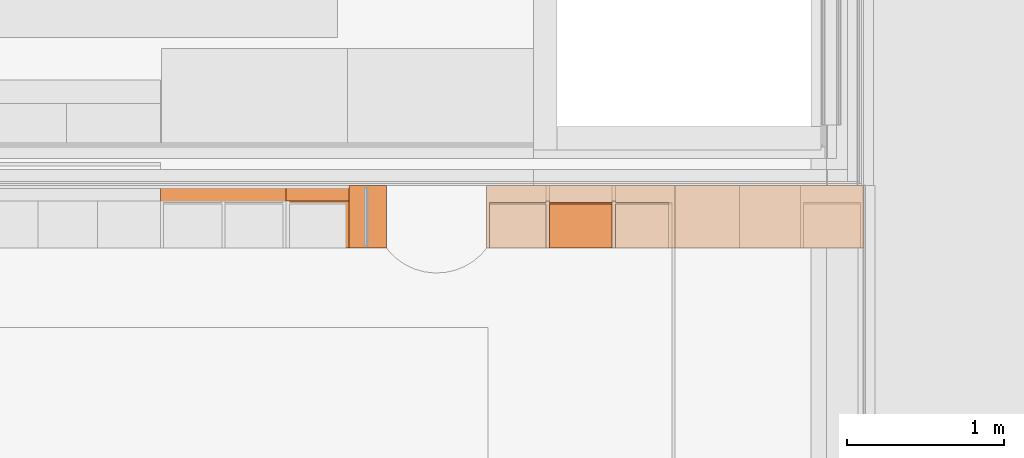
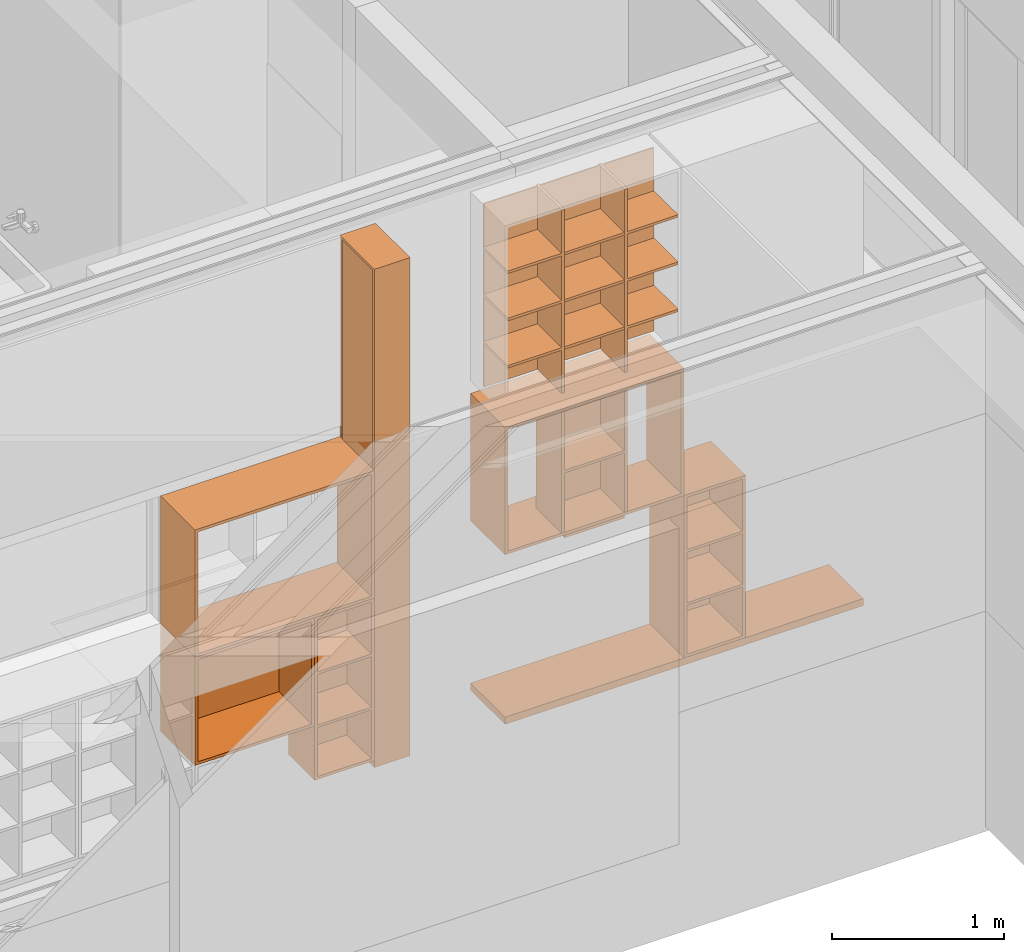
# One storey, part 130 of 137: 11 proxies.
"""IFC2X3 building model written with IfcOpenShell, lengths in millimetres."""

from ifc_helpers import new_model, entity, si_unit, converted_unit, derived_unit, money_unit, direction, frame, origin_with_axes, place, context, subcontext, project, spatial, faceted_brep, type_object, element, save


model = new_model("IFC2X3")

# Units and contexts
model_context = context("Model", 3, precision=0.01, world=origin_with_axes(), true_north=direction((0.0, 1.0)))
body_context = subcontext(model_context, "Body", "Model", "MODEL_VIEW")
ifc_project = project(units=[si_unit("LENGTHUNIT", "METRE", prefix="MILLI"), si_unit("AREAUNIT", "SQUARE_METRE"), si_unit("VOLUMEUNIT", "CUBIC_METRE"), converted_unit("PLANEANGLEUNIT", "DEGREE", entity("IfcPlaneAngleMeasure", 0.0174532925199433), si_unit("PLANEANGLEUNIT", "RADIAN"), dimensions=[0, 0, 0, 0, 0, 0, 0]), money_unit("EUR"), converted_unit("TIMEUNIT", "Year", entity("IfcTimeMeasure", 31556926.0), si_unit("TIMEUNIT", "SECOND"), dimensions=[0, 0, 1, 0, 0, 0, 0]), si_unit("MASSUNIT", "GRAM", prefix="KILO"), si_unit("THERMODYNAMICTEMPERATUREUNIT", "DEGREE_CELSIUS"), si_unit("LUMINOUSINTENSITYUNIT", "LUMEN"), si_unit("ENERGYUNIT", "JOULE", prefix="MEGA"), derived_unit("THERMALCONDUCTANCEUNIT", [(si_unit("POWERUNIT", "WATT"), 1), (si_unit("LENGTHUNIT", "METRE"), -1), (si_unit("THERMODYNAMICTEMPERATUREUNIT", "KELVIN"), -1)]), derived_unit("SPECIFICHEATCAPACITYUNIT", [(si_unit("ENERGYUNIT", "JOULE"), 1), (si_unit("MASSUNIT", "GRAM", prefix="KILO"), -1), (si_unit("THERMODYNAMICTEMPERATUREUNIT", "KELVIN"), -1)]), derived_unit("MASSDENSITYUNIT", [(si_unit("MASSUNIT", "GRAM", prefix="KILO"), 1), (si_unit("VOLUMEUNIT", "CUBIC_METRE"), -1)])], contexts=[model_context])

# Site, building, storey
site_placement = place(None, origin_with_axes())
site = spatial("IfcSite", under=ifc_project, at=site_placement, Name="Site", CompositionType="ELEMENT")
building_placement = place(site_placement, origin_with_axes())
building = spatial("IfcBuilding", under=site, at=building_placement, Name="Naam gebouw", CompositionType="ELEMENT")
storey_placement = place(building_placement, frame((0.0, 0.0, 3960.0), z_axis=(0.0, 0.0, 1.0), x_axis=(1.0, 0.0, 0.0)))
storey = spatial("IfcBuildingStorey", under=building, at=storey_placement, Name="1e verdieping", CompositionType="ELEMENT", Elevation=3960.0)

# Proxies
building_element_proxy_type = type_object("IfcBuildingElementProxyType", Name="Onderkast recht 26", PredefinedType="NOTDEFINED")
proxy_1_placement = place(storey_placement, frame((21360.00661817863, 12504.99778166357, 0.0), z_axis=(0.0, 0.0, 1.0), x_axis=(0.0, 1.0, 0.0)))
element("IfcBuildingElementProxy", 1, at=proxy_1_placement, inside=storey, type_object=building_element_proxy_type, Name="_Leeg", context=body_context, shape_type="Brep", body=[
    faceted_brep([(18.0, -239.9999999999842, 50.0), (382.0, -239.9999999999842, 50.0), (382.0, -239.9999999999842, 68.0), (18.0, -239.9999999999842, 68.0), (18.0, 0.0, 50.0), (382.0, 0.0, 50.0), (382.0, 0.0, 68.0), (18.0, 0.0, 68.0)], [[[0, 1, 2, 3]], [[0, 4, 5, 1]], [[1, 5, 6, 2]], [[3, 2, 6, 7]], [[4, 0, 3, 7]], [[5, 4, 7, 6]]]),
    faceted_brep([(18.0, -239.9999999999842, 3509.000000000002), (382.0, -239.9999999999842, 3509.000000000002), (382.0, -239.9999999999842, 3527.000000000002), (18.0, -239.9999999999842, 3527.000000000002), (18.0, 0.0, 3509.000000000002), (382.0, 0.0, 3509.000000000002), (382.0, 0.0, 3527.000000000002), (18.0, 0.0, 3527.000000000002)], [[[0, 1, 2, 3]], [[0, 4, 5, 1]], [[1, 5, 6, 2]], [[3, 2, 6, 7]], [[4, 0, 3, 7]], [[5, 4, 7, 6]]]),
    faceted_brep([(0.0, 0.0, 50.0), (0.0, -239.9999999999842, 50.0), (0.0, -239.9999999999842, 3527.000000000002), (0.0, 0.0, 3527.000000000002), (18.0, 0.0, 50.0), (18.0, -239.9999999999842, 50.0), (18.0, -239.9999999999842, 3527.000000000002), (18.0, 0.0, 3527.000000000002)], [[[0, 1, 2, 3]], [[0, 4, 5, 1]], [[1, 5, 6, 2]], [[3, 2, 6, 7]], [[4, 0, 3, 7]], [[5, 4, 7, 6]]]),
    faceted_brep([(400.0, -239.9999999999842, 50.0), (400.0, 0.0, 50.0), (400.0, 0.0, 3527.000000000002), (400.0, -239.9999999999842, 3527.000000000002), (382.0, -239.9999999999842, 50.0), (382.0, 0.0, 50.0), (382.0, 0.0, 3527.000000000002), (382.0, -239.9999999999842, 3527.000000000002)], [[[0, 1, 2, 3]], [[0, 4, 5, 1]], [[1, 5, 6, 2]], [[3, 2, 6, 7]], [[4, 0, 3, 7]], [[5, 4, 7, 6]]]),
    faceted_brep([(382.0, -9.0, 68.0), (18.00000000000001, -9.0, 68.0), (18.00000000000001, -9.0, 3509.000000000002), (382.0, -9.0, 3509.000000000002), (382.0, -18.0, 68.0), (18.00000000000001, -18.0, 68.0), (18.00000000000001, -18.0, 3509.000000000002), (382.0, -18.0, 3509.000000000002)], [[[0, 1, 2, 3]], [[0, 4, 5, 1]], [[1, 5, 6, 2]], [[3, 2, 6, 7]], [[4, 0, 3, 7]], [[5, 4, 7, 6]]]),
    faceted_brep([(0.0, -239.9999999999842, 0.0), (400.0, -239.9999999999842, 0.0), (400.0, -239.9999999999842, 50.0), (0.0, -239.9999999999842, 50.0), (0.0, 0.0, 0.0), (400.0, 0.0, 0.0), (400.0, 0.0, 50.0), (0.0, 0.0, 50.0)], [[[0, 1, 2, 3]], [[0, 4, 5, 1]], [[1, 5, 6, 2]], [[3, 2, 6, 7]], [[4, 0, 3, 7]], [[5, 4, 7, 6]]]),
])
proxy_2_placement = place(storey_placement, frame((23054.99903999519, 12804.99778166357, 1199.999999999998), z_axis=(0.0, 0.0, 1.0), x_axis=(1.0, 0.0, 0.0)))
element("IfcBuildingElementProxy", 2, at=proxy_2_placement, inside=storey, type_object=building_element_proxy_type, Name="_Leeg", context=body_context, shape_type="Brep", body=[
    faceted_brep([(-420.0000000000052, -300.0000000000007, 441.0000000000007), (-19.99999999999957, -300.0000000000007, 441.0000000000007), (-19.99999999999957, -300.0000000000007, 459.0000000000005), (-420.0000000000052, -300.0000000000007, 459.0000000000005), (-19.99999999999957, -19.99999999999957, 441.0000000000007), (-420.0000000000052, -19.99999999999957, 441.0000000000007), (-19.99999999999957, -19.99999999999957, 459.0000000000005), (-420.0000000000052, -19.99999999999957, 459.0000000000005)], [[[0, 1, 2, 3]], [[4, 1, 0, 5]], [[1, 4, 6, 2]], [[3, 2, 6, 7]], [[5, 0, 3, 7]], [[4, 5, 7, 6]]]),
    faceted_brep([(-19.99999999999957, -9.999999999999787, 19.99999999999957), (-420.0000000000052, -9.999999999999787, 19.99999999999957), (-420.0000000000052, -9.999999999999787, 880.0000000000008), (-19.99999999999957, -9.999999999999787, 880.0000000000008), (-420.0000000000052, -19.99999999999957, 19.99999999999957), (-19.99999999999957, -19.99999999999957, 19.99999999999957), (-420.0000000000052, -19.99999999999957, 880.0000000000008), (-19.99999999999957, -19.99999999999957, 880.0000000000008)], [[[0, 1, 2, 3]], [[4, 1, 0, 5]], [[1, 4, 6, 2]], [[3, 2, 6, 7]], [[5, 0, 3, 7]], [[4, 5, 7, 6]]]),
    faceted_brep([(-19.99999999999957, 0.0, 880.0000000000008), (0.0, 0.0, 880.0000000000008), (0.0, 0.0, 19.99999999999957), (-19.99999999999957, 0.0, 19.99999999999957), (0.0, -300.0000000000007, 880.0000000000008), (-19.99999999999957, -300.0000000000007, 880.0000000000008), (0.0, -300.0000000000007, 19.99999999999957), (-19.99999999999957, -300.0000000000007, 19.99999999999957)], [[[0, 1, 2, 3]], [[4, 1, 0, 5]], [[1, 4, 6, 2]], [[3, 2, 6, 7]], [[5, 0, 3, 7]], [[4, 5, 7, 6]]]),
    faceted_brep([(-440.0000000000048, 0.0, 880.0000000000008), (-420.0000000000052, 0.0, 880.0000000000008), (-420.0000000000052, 0.0, 19.99999999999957), (-440.0000000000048, 0.0, 19.99999999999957), (-420.0000000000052, -300.0000000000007, 880.0000000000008), (-440.0000000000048, -300.0000000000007, 880.0000000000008), (-420.0000000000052, -300.0000000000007, 19.99999999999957), (-440.0000000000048, -300.0000000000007, 19.99999999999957)], [[[0, 1, 2, 3]], [[4, 1, 0, 5]], [[1, 4, 6, 2]], [[3, 2, 6, 7]], [[5, 0, 3, 7]], [[4, 5, 7, 6]]]),
])
proxy_3_placement = place(storey_placement, frame((23054.99903999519, 12804.99778166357, 2190.0), z_axis=(0.0, 0.0, 1.0), x_axis=(1.0, 0.0, 0.0)))
element("IfcBuildingElementProxy", 3, at=proxy_3_placement, inside=storey, type_object=building_element_proxy_type, Name="_Leeg", context=body_context, shape_type="Brep", body=[
    faceted_brep([(-419.9999999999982, -300.0000000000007, 325.2500000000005), (-19.99999999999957, -300.0000000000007, 325.2500000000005), (-19.99999999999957, -300.0000000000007, 343.2500000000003), (-419.9999999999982, -300.0000000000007, 343.2500000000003), (-19.99999999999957, -19.99999999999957, 325.2500000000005), (-419.9999999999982, -19.99999999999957, 325.2500000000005), (-19.99999999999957, -19.99999999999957, 343.2500000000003), (-419.9999999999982, -19.99999999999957, 343.2500000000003)], [[[0, 1, 2, 3]], [[4, 1, 0, 5]], [[1, 4, 6, 2]], [[3, 2, 6, 7]], [[5, 0, 3, 7]], [[4, 5, 7, 6]]]),
    faceted_brep([(-419.9999999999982, -300.0000000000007, 659.5000000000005), (-19.99999999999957, -300.0000000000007, 659.5000000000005), (-19.99999999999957, -300.0000000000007, 677.5000000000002), (-419.9999999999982, -300.0000000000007, 677.5000000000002), (-19.99999999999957, -19.99999999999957, 659.5000000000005), (-419.9999999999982, -19.99999999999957, 659.5000000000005), (-19.99999999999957, -19.99999999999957, 677.5000000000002), (-419.9999999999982, -19.99999999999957, 677.5000000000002)], [[[0, 1, 2, 3]], [[4, 1, 0, 5]], [[1, 4, 6, 2]], [[3, 2, 6, 7]], [[5, 0, 3, 7]], [[4, 5, 7, 6]]]),
    faceted_brep([(-419.9999999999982, -300.0000000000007, 993.7500000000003), (-19.99999999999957, -300.0000000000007, 993.7500000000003), (-19.99999999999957, -300.0000000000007, 1011.75), (-419.9999999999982, -300.0000000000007, 1011.75), (-19.99999999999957, -19.99999999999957, 993.7500000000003), (-419.9999999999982, -19.99999999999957, 993.7500000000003), (-19.99999999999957, -19.99999999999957, 1011.75), (-419.9999999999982, -19.99999999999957, 1011.75)], [[[0, 1, 2, 3]], [[4, 1, 0, 5]], [[1, 4, 6, 2]], [[3, 2, 6, 7]], [[5, 0, 3, 7]], [[4, 5, 7, 6]]]),
    faceted_brep([(-19.99999999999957, -9.999999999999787, 19.99999999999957), (-419.9999999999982, -9.999999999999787, 19.99999999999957), (-419.9999999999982, -9.999999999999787, 1317.0), (-19.99999999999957, -9.999999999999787, 1317.0), (-419.9999999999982, -19.99999999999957, 19.99999999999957), (-19.99999999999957, -19.99999999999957, 19.99999999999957), (-419.9999999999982, -19.99999999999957, 1317.0), (-19.99999999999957, -19.99999999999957, 1317.0)], [[[0, 1, 2, 3]], [[4, 1, 0, 5]], [[1, 4, 6, 2]], [[3, 2, 6, 7]], [[5, 0, 3, 7]], [[4, 5, 7, 6]]]),
    faceted_brep([(-19.99999999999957, 0.0, 1317.000000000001), (0.0, 0.0, 1317.000000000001), (0.0, 0.0, 20.00000000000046), (-19.99999999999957, 0.0, 20.00000000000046), (0.0, -300.0000000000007, 1317.000000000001), (-19.99999999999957, -300.0000000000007, 1317.000000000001), (0.0, -300.0000000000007, 20.00000000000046), (-19.99999999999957, -300.0000000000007, 20.00000000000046)], [[[0, 1, 2, 3]], [[4, 1, 0, 5]], [[1, 4, 6, 2]], [[3, 2, 6, 7]], [[5, 0, 3, 7]], [[4, 5, 7, 6]]]),
    faceted_brep([(-439.9999999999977, 0.0, 1317.000000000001), (-419.9999999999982, 0.0, 1317.000000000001), (-419.9999999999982, 0.0, 20.00000000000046), (-439.9999999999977, 0.0, 20.00000000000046), (-419.9999999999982, -300.0000000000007, 1317.000000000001), (-439.9999999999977, -300.0000000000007, 1317.000000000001), (-419.9999999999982, -300.0000000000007, 20.00000000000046), (-439.9999999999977, -300.0000000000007, 20.00000000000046)], [[[0, 1, 2, 3]], [[4, 1, 0, 5]], [[1, 4, 6, 2]], [[3, 2, 6, 7]], [[5, 0, 3, 7]], [[4, 5, 7, 6]]]),
])
proxy_4_placement = place(storey_placement, frame((23414.99903999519, 12804.99778166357, 2190.0), z_axis=(0.0, 0.0, 1.0), x_axis=(1.0, 0.0, 0.0)))
element("IfcBuildingElementProxy", 4, at=proxy_4_placement, inside=storey, type_object=building_element_proxy_type, Name="_Leeg", context=body_context, shape_type="Brep", body=[
    faceted_brep([(-359.9999999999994, -300.0000000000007, 325.2500000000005), (-19.99999999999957, -300.0000000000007, 325.2500000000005), (-19.99999999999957, -300.0000000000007, 343.2500000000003), (-359.9999999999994, -300.0000000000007, 343.2500000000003), (-19.99999999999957, -19.99999999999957, 325.2500000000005), (-359.9999999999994, -19.99999999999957, 325.2500000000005), (-19.99999999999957, -19.99999999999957, 343.2500000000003), (-359.9999999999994, -19.99999999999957, 343.2500000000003)], [[[0, 1, 2, 3]], [[4, 1, 0, 5]], [[1, 4, 6, 2]], [[3, 2, 6, 7]], [[5, 0, 3, 7]], [[4, 5, 7, 6]]]),
    faceted_brep([(-359.9999999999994, -300.0000000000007, 659.5000000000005), (-19.99999999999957, -300.0000000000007, 659.5000000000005), (-19.99999999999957, -300.0000000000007, 677.5000000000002), (-359.9999999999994, -300.0000000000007, 677.5000000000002), (-19.99999999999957, -19.99999999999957, 659.5000000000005), (-359.9999999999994, -19.99999999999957, 659.5000000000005), (-19.99999999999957, -19.99999999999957, 677.5000000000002), (-359.9999999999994, -19.99999999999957, 677.5000000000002)], [[[0, 1, 2, 3]], [[4, 1, 0, 5]], [[1, 4, 6, 2]], [[3, 2, 6, 7]], [[5, 0, 3, 7]], [[4, 5, 7, 6]]]),
    faceted_brep([(-359.9999999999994, -300.0000000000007, 993.7500000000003), (-19.99999999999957, -300.0000000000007, 993.7500000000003), (-19.99999999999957, -300.0000000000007, 1011.75), (-359.9999999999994, -300.0000000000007, 1011.75), (-19.99999999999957, -19.99999999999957, 993.7500000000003), (-359.9999999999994, -19.99999999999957, 993.7500000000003), (-19.99999999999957, -19.99999999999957, 1011.75), (-359.9999999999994, -19.99999999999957, 1011.75)], [[[0, 1, 2, 3]], [[4, 1, 0, 5]], [[1, 4, 6, 2]], [[3, 2, 6, 7]], [[5, 0, 3, 7]], [[4, 5, 7, 6]]]),
    faceted_brep([(-19.99999999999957, -9.999999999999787, 19.99999999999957), (-359.9999999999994, -9.999999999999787, 19.99999999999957), (-359.9999999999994, -9.999999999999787, 1317.0), (-19.99999999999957, -9.999999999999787, 1317.0), (-359.9999999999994, -19.99999999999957, 19.99999999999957), (-19.99999999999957, -19.99999999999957, 19.99999999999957), (-359.9999999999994, -19.99999999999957, 1317.0), (-19.99999999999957, -19.99999999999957, 1317.0)], [[[0, 1, 2, 3]], [[4, 1, 0, 5]], [[1, 4, 6, 2]], [[3, 2, 6, 7]], [[5, 0, 3, 7]], [[4, 5, 7, 6]]]),
    faceted_brep([(-379.999999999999, 0.0, 1317.000000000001), (-359.9999999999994, 0.0, 1317.000000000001), (-359.9999999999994, 0.0, 20.00000000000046), (-379.999999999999, 0.0, 20.00000000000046), (-359.9999999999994, -300.0000000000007, 1317.000000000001), (-379.999999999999, -300.0000000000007, 1317.000000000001), (-359.9999999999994, -300.0000000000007, 20.00000000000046), (-379.999999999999, -300.0000000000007, 20.00000000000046)], [[[0, 1, 2, 3]], [[4, 1, 0, 5]], [[1, 4, 6, 2]], [[3, 2, 6, 7]], [[5, 0, 3, 7]], [[4, 5, 7, 6]]]),
])
proxy_5_placement = place(storey_placement, frame((22634.99903999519, 12804.99778166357, 2190.0), z_axis=(0.0, 0.0, 1.0), x_axis=(1.0, 0.0, 0.0)))
element("IfcBuildingElementProxy", 5, at=proxy_5_placement, inside=storey, type_object=building_element_proxy_type, Name="_Leeg", context=body_context, shape_type="Brep", body=[
    faceted_brep([(-379.999999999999, -300.0000000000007, 325.2500000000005), (-19.99999999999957, -300.0000000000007, 325.2500000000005), (-19.99999999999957, -300.0000000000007, 343.2500000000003), (-379.999999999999, -300.0000000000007, 343.2500000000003), (-19.99999999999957, -19.99999999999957, 325.2500000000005), (-379.999999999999, -19.99999999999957, 325.2500000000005), (-19.99999999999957, -19.99999999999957, 343.2500000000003), (-379.999999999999, -19.99999999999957, 343.2500000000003)], [[[0, 1, 2, 3]], [[4, 1, 0, 5]], [[1, 4, 6, 2]], [[3, 2, 6, 7]], [[5, 0, 3, 7]], [[4, 5, 7, 6]]]),
    faceted_brep([(-379.999999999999, -300.0000000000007, 659.5000000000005), (-19.99999999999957, -300.0000000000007, 659.5000000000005), (-19.99999999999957, -300.0000000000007, 677.5000000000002), (-379.999999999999, -300.0000000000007, 677.5000000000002), (-19.99999999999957, -19.99999999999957, 659.5000000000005), (-379.999999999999, -19.99999999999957, 659.5000000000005), (-19.99999999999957, -19.99999999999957, 677.5000000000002), (-379.999999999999, -19.99999999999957, 677.5000000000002)], [[[0, 1, 2, 3]], [[4, 1, 0, 5]], [[1, 4, 6, 2]], [[3, 2, 6, 7]], [[5, 0, 3, 7]], [[4, 5, 7, 6]]]),
    faceted_brep([(-379.999999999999, -300.0000000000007, 993.7500000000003), (-19.99999999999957, -300.0000000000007, 993.7500000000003), (-19.99999999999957, -300.0000000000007, 1011.75), (-379.999999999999, -300.0000000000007, 1011.75), (-19.99999999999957, -19.99999999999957, 993.7500000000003), (-379.999999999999, -19.99999999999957, 993.7500000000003), (-19.99999999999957, -19.99999999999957, 1011.75), (-379.999999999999, -19.99999999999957, 1011.75)], [[[0, 1, 2, 3]], [[4, 1, 0, 5]], [[1, 4, 6, 2]], [[3, 2, 6, 7]], [[5, 0, 3, 7]], [[4, 5, 7, 6]]]),
    faceted_brep([(-19.99999999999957, -9.999999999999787, 19.99999999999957), (-379.999999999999, -9.999999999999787, 19.99999999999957), (-379.999999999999, -9.999999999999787, 1317.0), (-19.99999999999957, -9.999999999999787, 1317.0), (-379.999999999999, -19.99999999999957, 19.99999999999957), (-19.99999999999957, -19.99999999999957, 19.99999999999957), (-379.999999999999, -19.99999999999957, 1317.0), (-19.99999999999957, -19.99999999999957, 1317.0)], [[[0, 1, 2, 3]], [[4, 1, 0, 5]], [[1, 4, 6, 2]], [[3, 2, 6, 7]], [[5, 0, 3, 7]], [[4, 5, 7, 6]]]),
    faceted_brep([(-19.99999999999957, 0.0, 1317.000000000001), (0.0, 0.0, 1317.000000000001), (0.0, 0.0, 20.00000000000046), (-19.99999999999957, 0.0, 20.00000000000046), (0.0, -300.0000000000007, 1317.000000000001), (-19.99999999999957, -300.0000000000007, 1317.000000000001), (0.0, -300.0000000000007, 20.00000000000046), (-19.99999999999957, -300.0000000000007, 20.00000000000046)], [[[0, 1, 2, 3]], [[4, 1, 0, 5]], [[1, 4, 6, 2]], [[3, 2, 6, 7]], [[5, 0, 3, 7]], [[4, 5, 7, 6]]]),
])
proxy_6_placement = place(storey_placement, frame((21360.00661817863, 12804.99778166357, 49.99999999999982), z_axis=(0.0, 0.0, 1.0), x_axis=(1.0, 0.0, 0.0)))
element("IfcBuildingElementProxy", 6, at=proxy_6_placement, inside=storey, type_object=building_element_proxy_type, Name="_Leeg", context=body_context, shape_type="Brep", body=[
    faceted_brep([(-20.0, -300.0, 366.6666666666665), (-20.0, -300.0, 384.6666666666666), (-380.0000000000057, -300.0, 384.6666666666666), (-380.0000000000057, -300.0, 366.6666666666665), (-20.0, -20.0, 366.6666666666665), (-20.0, -20.0, 384.6666666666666), (-380.0000000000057, -20.0, 384.6666666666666), (-380.0000000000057, -20.0, 366.6666666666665)], [[[0, 1, 2, 3]], [[4, 5, 1, 0]], [[1, 5, 6, 2]], [[3, 2, 6, 7]], [[0, 3, 7, 4]], [[7, 6, 5, 4]]]),
    faceted_brep([(-20.0, -300.0, 743.3333333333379), (-20.0, -300.0, 761.3333333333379), (-380.0000000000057, -300.0, 761.3333333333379), (-380.0000000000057, -300.0, 743.3333333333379), (-20.0, -20.0, 743.3333333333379), (-20.0, -20.0, 761.3333333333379), (-380.0000000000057, -20.0, 761.3333333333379), (-380.0000000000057, -20.0, 743.3333333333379)], [[[0, 1, 2, 3]], [[4, 5, 1, 0]], [[1, 5, 6, 2]], [[3, 2, 6, 7]], [[0, 3, 7, 4]], [[7, 6, 5, 4]]]),
    faceted_brep([(-20.0, -300.0, 0.0), (-20.0, -300.0, 20.0), (-380.0000000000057, -300.0, 20.0), (-380.0000000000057, -300.0, 0.0), (-20.0, 0.0, 0.0), (-20.0, 0.0, 20.0), (-380.0000000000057, 0.0, 20.0), (-380.0000000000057, 0.0, 0.0)], [[[0, 1, 2, 3]], [[4, 5, 1, 0]], [[1, 5, 6, 2]], [[3, 2, 6, 7]], [[0, 3, 7, 4]], [[7, 6, 5, 4]]]),
    faceted_brep([(-20.0, -300.0, 1130.0), (-20.0, -300.0, 1150.0), (-380.0000000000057, -300.0, 1150.0), (-380.0000000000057, -300.0, 1130.0), (-20.0, 0.0, 1130.0), (-20.0, 0.0, 1150.0), (-380.0000000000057, 0.0, 1150.0), (-380.0000000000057, 0.0, 1130.0)], [[[0, 1, 2, 3]], [[4, 5, 1, 0]], [[1, 5, 6, 2]], [[3, 2, 6, 7]], [[0, 3, 7, 4]], [[7, 6, 5, 4]]]),
    faceted_brep([(0.0, 0.0, 0.0), (0.0, 0.0, 1150.0), (0.0, -300.0, 1150.0), (0.0, -300.0, 0.0), (-20.0, 0.0, 0.0), (-20.0, 0.0, 1150.0), (-20.0, -300.0, 1150.0), (-20.0, -300.0, 0.0)], [[[0, 1, 2, 3]], [[4, 5, 1, 0]], [[1, 5, 6, 2]], [[3, 2, 6, 7]], [[0, 3, 7, 4]], [[7, 6, 5, 4]]]),
    faceted_brep([(-400.0000000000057, -300.0, 0.0), (-400.0000000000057, -300.0, 1150.0), (-400.0000000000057, 0.0, 1150.0), (-400.0000000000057, 0.0, 0.0), (-380.0000000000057, -300.0, 0.0), (-380.0000000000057, -300.0, 1150.0), (-380.0000000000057, 0.0, 1150.0), (-380.0000000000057, 0.0, 0.0)], [[[0, 1, 2, 3]], [[4, 5, 1, 0]], [[1, 5, 6, 2]], [[3, 2, 6, 7]], [[0, 3, 7, 4]], [[7, 6, 5, 4]]]),
    faceted_brep([(-380.0000000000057, -10.0, 20.0), (-380.0000000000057, -10.0, 1130.0), (-20.00000000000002, -10.0, 1130.0), (-20.00000000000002, -10.0, 20.0), (-380.0000000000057, -20.0, 20.0), (-380.0000000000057, -20.0, 1130.0), (-20.00000000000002, -20.0, 1130.0), (-20.00000000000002, -20.0, 20.0)], [[[0, 1, 2, 3]], [[4, 5, 1, 0]], [[1, 5, 6, 2]], [[3, 2, 6, 7]], [[0, 3, 7, 4]], [[7, 6, 5, 4]]]),
])
proxy_7_placement = place(storey_placement, frame((20960.00661817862, 12904.99778166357, 434.6666666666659), z_axis=(0.0, 0.0, 1.0), x_axis=(1.0, 0.0, 0.0)))
element("IfcBuildingElementProxy", 7, at=proxy_7_placement, inside=storey, type_object=building_element_proxy_type, Name="_Leeg", context=body_context, shape_type="Brep", body=[
    faceted_brep([(-20.0, -400.0000000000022, 0.0), (-20.0, -400.0000000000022, 20.0), (-780.0000000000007, -400.0000000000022, 20.0), (-780.0000000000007, -400.0000000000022, 0.0), (-20.0, 0.0, 0.0), (-20.0, 0.0, 20.0), (-780.0000000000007, 0.0, 20.0), (-780.0000000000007, 0.0, 0.0)], [[[0, 1, 2, 3]], [[4, 5, 1, 0]], [[1, 5, 6, 2]], [[3, 2, 6, 7]], [[0, 3, 7, 4]], [[7, 6, 5, 4]]]),
    faceted_brep([(-20.0, -400.0000000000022, 745.3333333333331), (-20.0, -400.0000000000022, 765.3333333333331), (-780.0000000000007, -400.0000000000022, 765.3333333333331), (-780.0000000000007, -400.0000000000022, 745.3333333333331), (-20.0, 0.0, 745.3333333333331), (-20.0, 0.0, 765.3333333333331), (-780.0000000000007, 0.0, 765.3333333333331), (-780.0000000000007, 0.0, 745.3333333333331)], [[[0, 1, 2, 3]], [[4, 5, 1, 0]], [[1, 5, 6, 2]], [[3, 2, 6, 7]], [[0, 3, 7, 4]], [[7, 6, 5, 4]]]),
    faceted_brep([(0.0, 0.0, 0.0), (0.0, 0.0, 765.3333333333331), (0.0, -400.0000000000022, 765.3333333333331), (0.0, -400.0000000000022, 0.0), (-20.0, 0.0, 0.0), (-20.0, 0.0, 765.3333333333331), (-20.0, -400.0000000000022, 765.3333333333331), (-20.0, -400.0000000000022, 0.0)], [[[0, 1, 2, 3]], [[4, 5, 1, 0]], [[1, 5, 6, 2]], [[3, 2, 6, 7]], [[0, 3, 7, 4]], [[7, 6, 5, 4]]]),
    faceted_brep([(-800.0000000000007, -400.0000000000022, 0.0), (-800.0000000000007, -400.0000000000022, 765.3333333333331), (-800.0000000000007, 0.0, 765.3333333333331), (-800.0000000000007, 0.0, 0.0), (-780.0000000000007, -400.0000000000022, 0.0), (-780.0000000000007, -400.0000000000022, 765.3333333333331), (-780.0000000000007, 0.0, 765.3333333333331), (-780.0000000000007, 0.0, 0.0)], [[[0, 1, 2, 3]], [[4, 5, 1, 0]], [[1, 5, 6, 2]], [[3, 2, 6, 7]], [[0, 3, 7, 4]], [[7, 6, 5, 4]]]),
    faceted_brep([(-780.0000000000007, -10.0, 20.0), (-780.0000000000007, -10.0, 745.3333333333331), (-20.00000000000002, -10.0, 745.3333333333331), (-20.00000000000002, -10.0, 20.0), (-780.0000000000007, -20.0, 20.0), (-780.0000000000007, -20.0, 745.3333333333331), (-20.00000000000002, -20.0, 745.3333333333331), (-20.00000000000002, -20.0, 20.0)], [[[0, 1, 2, 3]], [[4, 5, 1, 0]], [[1, 5, 6, 2]], [[3, 2, 6, 7]], [[0, 3, 7, 4]], [[7, 6, 5, 4]]]),
])
proxy_8_placement = place(storey_placement, frame((24634.99915820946, 12504.99778166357, 0.0), z_axis=(0.0, 0.0, 1.0), x_axis=(-1.0, 0.0, 0.0)))
element("IfcBuildingElementProxy", 8, at=proxy_8_placement, inside=storey, type_object=building_element_proxy_type, Name="_Leeg", context=body_context, shape_type="Brep", body=[
    faceted_brep([(2400.00011821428, -399.999999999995, 49.99999999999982), (0.0, -399.999999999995, 49.99999999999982), (0.0, -399.999999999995, 0.0), (2400.00011821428, -399.999999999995, 0.0), (2400.00011821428, 0.0, 49.99999999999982), (0.0, 0.0, 49.99999999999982), (0.0, 0.0, 0.0), (2400.00011821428, 0.0, 0.0)], [[[0, 1, 2, 3]], [[4, 5, 1, 0]], [[1, 5, 6, 2]], [[7, 3, 2, 6]], [[4, 0, 3, 7]], [[5, 4, 7, 6]]]),
    faceted_brep([(2000.000118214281, -400.0000000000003, 1179.999999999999), (2000.000118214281, -400.0000000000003, 1199.999999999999), (1600.000118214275, -400.0000000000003, 1199.999999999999), (1600.000118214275, -400.0000000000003, 1179.999999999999), (2000.000118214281, 0.0, 1199.999999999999), (2000.000118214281, 0.0, 1179.999999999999), (1600.000118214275, 0.0, 1199.999999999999), (1600.000118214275, 0.0, 1179.999999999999)], [[[0, 1, 2, 3]], [[4, 1, 0, 5]], [[1, 4, 6, 2]], [[7, 3, 2, 6]], [[5, 0, 3, 7]], [[4, 5, 7, 6]]]),
])
proxy_9_placement = place(storey_placement, frame((23844.99903999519, 12904.99778166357, 49.99999999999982), z_axis=(0.0, 0.0, 1.0), x_axis=(1.0, 0.0, 0.0)))
element("IfcBuildingElementProxy", 9, at=proxy_9_placement, inside=storey, type_object=building_element_proxy_type, Name="_Leeg", context=body_context, shape_type="Brep", body=[
    faceted_brep([(-20.0, -399.9999999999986, 366.6666666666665), (-20.0, -399.9999999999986, 384.6666666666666), (-389.9999999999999, -399.9999999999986, 384.6666666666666), (-389.9999999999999, -399.9999999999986, 366.6666666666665), (-20.0, -20.0, 366.6666666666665), (-20.0, -20.0, 384.6666666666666), (-389.9999999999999, -20.0, 384.6666666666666), (-389.9999999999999, -20.0, 366.6666666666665)], [[[0, 1, 2, 3]], [[4, 5, 1, 0]], [[1, 5, 6, 2]], [[3, 2, 6, 7]], [[0, 3, 7, 4]], [[7, 6, 5, 4]]]),
    faceted_brep([(-20.0, -399.9999999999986, 743.3333333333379), (-20.0, -399.9999999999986, 761.3333333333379), (-389.9999999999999, -399.9999999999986, 761.3333333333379), (-389.9999999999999, -399.9999999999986, 743.3333333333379), (-20.0, -20.0, 743.3333333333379), (-20.0, -20.0, 761.3333333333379), (-389.9999999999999, -20.0, 761.3333333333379), (-389.9999999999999, -20.0, 743.3333333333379)], [[[0, 1, 2, 3]], [[4, 5, 1, 0]], [[1, 5, 6, 2]], [[3, 2, 6, 7]], [[0, 3, 7, 4]], [[7, 6, 5, 4]]]),
    faceted_brep([(-20.0, -399.9999999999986, 0.0), (-20.0, -399.9999999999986, 20.0), (-389.9999999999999, -399.9999999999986, 20.0), (-389.9999999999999, -399.9999999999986, 0.0), (-20.0, 0.0, 0.0), (-20.0, 0.0, 20.0), (-389.9999999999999, 0.0, 20.0), (-389.9999999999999, 0.0, 0.0)], [[[0, 1, 2, 3]], [[4, 5, 1, 0]], [[1, 5, 6, 2]], [[3, 2, 6, 7]], [[0, 3, 7, 4]], [[7, 6, 5, 4]]]),
    faceted_brep([(-20.0, -399.9999999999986, 1129.999999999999), (-20.0, -399.9999999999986, 1149.999999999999), (-389.9999999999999, -399.9999999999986, 1149.999999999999), (-389.9999999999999, -399.9999999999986, 1129.999999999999), (-20.0, 0.0, 1129.999999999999), (-20.0, 0.0, 1149.999999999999), (-389.9999999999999, 0.0, 1149.999999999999), (-389.9999999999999, 0.0, 1129.999999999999)], [[[0, 1, 2, 3]], [[4, 5, 1, 0]], [[1, 5, 6, 2]], [[3, 2, 6, 7]], [[0, 3, 7, 4]], [[7, 6, 5, 4]]]),
    faceted_brep([(0.0, 0.0, 0.0), (0.0, 0.0, 1149.999999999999), (0.0, -399.9999999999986, 1149.999999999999), (0.0, -399.9999999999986, 0.0), (-20.0, 0.0, 0.0), (-20.0, 0.0, 1149.999999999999), (-20.0, -399.9999999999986, 1149.999999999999), (-20.0, -399.9999999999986, 0.0)], [[[0, 1, 2, 3]], [[4, 5, 1, 0]], [[1, 5, 6, 2]], [[3, 2, 6, 7]], [[0, 3, 7, 4]], [[7, 6, 5, 4]]]),
    faceted_brep([(-410.0, -399.9999999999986, 0.0), (-410.0, -399.9999999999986, 1149.999999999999), (-410.0, 0.0, 1149.999999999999), (-410.0, 0.0, 0.0), (-389.9999999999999, -399.9999999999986, 0.0), (-389.9999999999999, -399.9999999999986, 1149.999999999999), (-389.9999999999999, 0.0, 1149.999999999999), (-389.9999999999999, 0.0, 0.0)], [[[0, 1, 2, 3]], [[4, 5, 1, 0]], [[1, 5, 6, 2]], [[3, 2, 6, 7]], [[0, 3, 7, 4]], [[7, 6, 5, 4]]]),
    faceted_brep([(-389.9999999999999, -10.0, 20.0), (-389.9999999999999, -10.0, 1129.999999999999), (-20.00000000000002, -10.0, 1129.999999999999), (-20.00000000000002, -10.0, 20.0), (-389.9999999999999, -20.0, 20.0), (-389.9999999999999, -20.0, 1129.999999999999), (-20.00000000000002, -20.0, 1129.999999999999), (-20.00000000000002, -20.0, 20.0)], [[[0, 1, 2, 3]], [[4, 5, 1, 0]], [[1, 5, 6, 2]], [[3, 2, 6, 7]], [[0, 3, 7, 4]], [[7, 6, 5, 4]]]),
])
proxy_10_placement = place(storey_placement, frame((20160.00661817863, 12504.99778166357, 1199.999999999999), z_axis=(0.0, 0.0, 1.0), x_axis=(-1.0, 0.0, 0.0)))
element("IfcBuildingElementProxy", 10, at=proxy_10_placement, inside=storey, type_object=building_element_proxy_type, Name="_Leeg", context=body_context, shape_type="Brep", body=[
    faceted_brep([(-20.0, -399.9999999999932, 0.0), (-20.0, -399.9999999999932, 20.0), (-1179.999999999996, -399.9999999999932, 20.0), (-1179.999999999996, -399.9999999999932, 0.0), (-20.0, 0.0, 0.0), (-20.0, 0.0, 20.0), (-1179.999999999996, 0.0, 20.0), (-1179.999999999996, 0.0, 0.0)], [[[0, 1, 2, 3]], [[4, 5, 1, 0]], [[1, 5, 6, 2]], [[3, 2, 6, 7]], [[0, 3, 7, 4]], [[7, 6, 5, 4]]]),
    faceted_brep([(-20.0, -399.9999999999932, 882.0000000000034), (-20.0, -399.9999999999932, 902.0000000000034), (-1179.999999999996, -399.9999999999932, 902.0000000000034), (-1179.999999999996, -399.9999999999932, 882.0000000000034), (-20.0, 0.0, 882.0000000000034), (-20.0, 0.0, 902.0000000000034), (-1179.999999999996, 0.0, 902.0000000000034), (-1179.999999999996, 0.0, 882.0000000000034)], [[[0, 1, 2, 3]], [[4, 5, 1, 0]], [[1, 5, 6, 2]], [[3, 2, 6, 7]], [[0, 3, 7, 4]], [[7, 6, 5, 4]]]),
    faceted_brep([(0.0, 0.0, 0.0), (0.0, 0.0, 902.0000000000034), (0.0, -399.9999999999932, 902.0000000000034), (0.0, -399.9999999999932, 0.0), (-20.0, 0.0, 0.0), (-20.0, 0.0, 902.0000000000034), (-20.0, -399.9999999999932, 902.0000000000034), (-20.0, -399.9999999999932, 0.0)], [[[0, 1, 2, 3]], [[4, 5, 1, 0]], [[1, 5, 6, 2]], [[3, 2, 6, 7]], [[0, 3, 7, 4]], [[7, 6, 5, 4]]]),
    faceted_brep([(-1199.999999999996, -399.9999999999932, 0.0), (-1199.999999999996, -399.9999999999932, 902.0000000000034), (-1199.999999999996, 0.0, 902.0000000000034), (-1199.999999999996, 0.0, 0.0), (-1179.999999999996, -399.9999999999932, 0.0), (-1179.999999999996, -399.9999999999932, 902.0000000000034), (-1179.999999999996, 0.0, 902.0000000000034), (-1179.999999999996, 0.0, 0.0)], [[[0, 1, 2, 3]], [[4, 5, 1, 0]], [[1, 5, 6, 2]], [[3, 2, 6, 7]], [[0, 3, 7, 4]], [[7, 6, 5, 4]]]),
])
proxy_11_placement = place(storey_placement, frame((22234.99903999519, 12504.99778166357, 1199.999999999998), z_axis=(0.0, 0.0, 1.0), x_axis=(-1.0, 0.0, 0.0)))
element("IfcBuildingElementProxy", 11, at=proxy_11_placement, inside=storey, type_object=building_element_proxy_type, Name="_Leeg", context=body_context, shape_type="Brep", body=[
    faceted_brep([(-20.0, -399.9999999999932, 0.0), (-20.0, -399.9999999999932, 20.0), (-1179.999999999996, -399.9999999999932, 20.0), (-1179.999999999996, -399.9999999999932, 0.0), (-20.0, 0.0, 0.0), (-20.0, 0.0, 20.0), (-1179.999999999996, 0.0, 20.0), (-1179.999999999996, 0.0, 0.0)], [[[0, 1, 2, 3]], [[4, 5, 1, 0]], [[1, 5, 6, 2]], [[3, 2, 6, 7]], [[0, 3, 7, 4]], [[7, 6, 5, 4]]]),
    faceted_brep([(-20.0, -399.9999999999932, 880.000000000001), (-20.0, -399.9999999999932, 900.000000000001), (-1179.999999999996, -399.9999999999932, 900.000000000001), (-1179.999999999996, -399.9999999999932, 880.000000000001), (-20.0, 0.0, 880.000000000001), (-20.0, 0.0, 900.000000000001), (-1179.999999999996, 0.0, 900.000000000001), (-1179.999999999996, 0.0, 880.000000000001)], [[[0, 1, 2, 3]], [[4, 5, 1, 0]], [[1, 5, 6, 2]], [[3, 2, 6, 7]], [[0, 3, 7, 4]], [[7, 6, 5, 4]]]),
    faceted_brep([(0.0, 0.0, 0.0), (0.0, 0.0, 900.000000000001), (0.0, -399.9999999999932, 900.000000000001), (0.0, -399.9999999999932, 0.0), (-20.0, 0.0, 0.0), (-20.0, 0.0, 900.000000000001), (-20.0, -399.9999999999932, 900.000000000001), (-20.0, -399.9999999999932, 0.0)], [[[0, 1, 2, 3]], [[4, 5, 1, 0]], [[1, 5, 6, 2]], [[3, 2, 6, 7]], [[0, 3, 7, 4]], [[7, 6, 5, 4]]]),
    faceted_brep([(-1199.999999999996, -399.9999999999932, 0.0), (-1199.999999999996, -399.9999999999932, 900.000000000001), (-1199.999999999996, 0.0, 900.000000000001), (-1199.999999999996, 0.0, 0.0), (-1179.999999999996, -399.9999999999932, 0.0), (-1179.999999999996, -399.9999999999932, 900.000000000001), (-1179.999999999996, 0.0, 900.000000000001), (-1179.999999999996, 0.0, 0.0)], [[[0, 1, 2, 3]], [[4, 5, 1, 0]], [[1, 5, 6, 2]], [[3, 2, 6, 7]], [[0, 3, 7, 4]], [[7, 6, 5, 4]]]),
])

save(model, "model.ifc")
